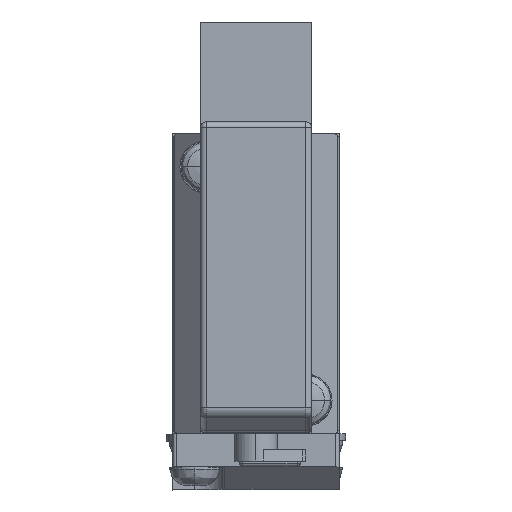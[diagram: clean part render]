
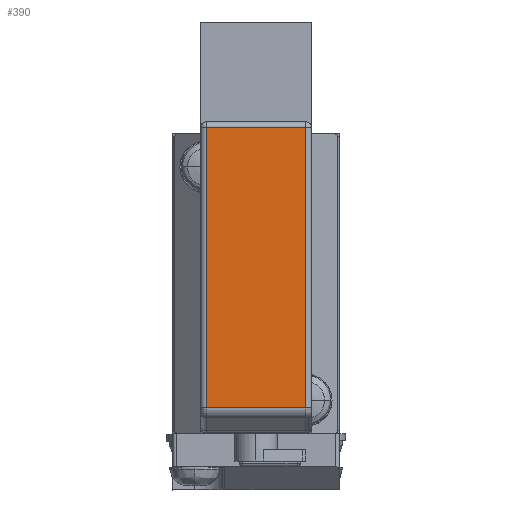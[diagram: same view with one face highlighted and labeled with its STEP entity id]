
A CAD part, top view. The second image highlights one B-rep face of the part: STEP entity #390.
In plain terms, the highlighted planar face has unit normal (0, 0, 1).
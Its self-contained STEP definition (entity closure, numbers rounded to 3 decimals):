
#390=ADVANCED_FACE('',(#1536),#1535,.F.);
#1535=PLANE('',#4180);
#1536=FACE_OUTER_BOUND('',#4181,.T.);
#4177=CARTESIAN_POINT('',(5.4,-27.283,27.4));
#4178=DIRECTION('',(0.,0.,-1.));
#4179=DIRECTION('',(-1.,0.,0.));
#4180=AXIS2_PLACEMENT_3D('',#4177,#4178,#4179);
#4181=EDGE_LOOP('',(#5964,#5965,#5966,#5967));
#5964=ORIENTED_EDGE('',*,*,#7239,.T.);
#5965=ORIENTED_EDGE('',*,*,#7203,.T.);
#5966=ORIENTED_EDGE('',*,*,#7240,.F.);
#5967=ORIENTED_EDGE('',*,*,#7224,.T.);
#7203=EDGE_CURVE('',#9097,#9110,#9117,.T.);
#7224=EDGE_CURVE('',#9228,#9248,#9255,.T.);
#7239=EDGE_CURVE('',#9248,#9097,#9350,.T.);
#7240=EDGE_CURVE('',#9228,#9110,#9356,.T.);
#9097=VERTEX_POINT('',#13439);
#9110=VERTEX_POINT('',#13448);
#9117=LINE('',#13453,#13454);
#9228=VERTEX_POINT('',#13525);
#9248=VERTEX_POINT('',#13539);
#9255=LINE('',#13544,#13545);
#9350=LINE('',#13597,#13598);
#9356=LINE('',#13600,#13601);
#13439=CARTESIAN_POINT('',(-4.5,0.5,27.4));
#13448=CARTESIAN_POINT('',(-4.5,-24.758,27.4));
#13453=CARTESIAN_POINT('',(-4.5,0.5,27.4));
#13454=VECTOR('',#13455,25.258);
#13455=DIRECTION('',(0.,-1.,0.));
#13525=CARTESIAN_POINT('',(4.5,-24.758,27.4));
#13539=CARTESIAN_POINT('',(4.5,0.5,27.4));
#13544=CARTESIAN_POINT('',(4.5,-24.758,27.4));
#13545=VECTOR('',#13546,25.258);
#13546=DIRECTION('',(0.,1.,0.));
#13597=CARTESIAN_POINT('',(4.5,0.5,27.4));
#13598=VECTOR('',#13599,9.);
#13599=DIRECTION('',(-1.,0.,0.));
#13600=CARTESIAN_POINT('',(4.5,-24.758,27.4));
#13601=VECTOR('',#13602,9.);
#13602=DIRECTION('',(-1.,0.,0.));
